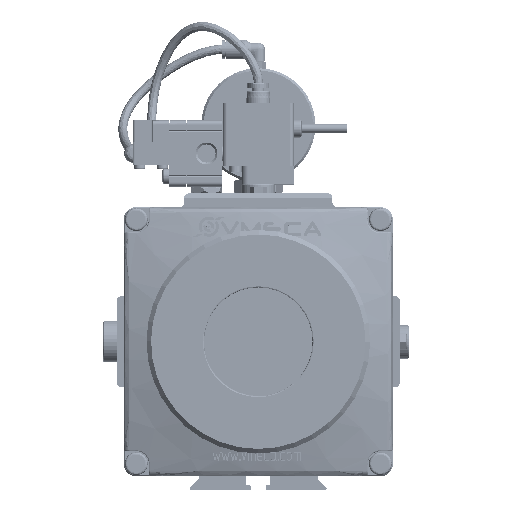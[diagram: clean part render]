
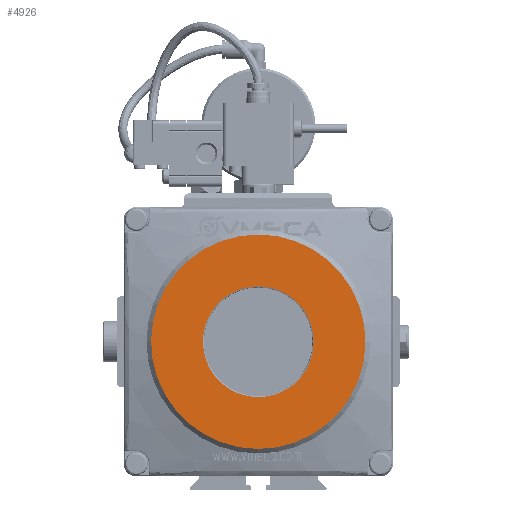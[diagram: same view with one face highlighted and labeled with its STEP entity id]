
A CAD part, left-side view. The second image highlights one B-rep face of the part: STEP entity #4926.
In plain terms, the highlighted planar face has unit normal (-1, 0, 0).
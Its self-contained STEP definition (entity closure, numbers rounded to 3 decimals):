
#4926 = ADVANCED_FACE( '', ( #11439, #11440 ), #11441, .F. );
#11439 = FACE_OUTER_BOUND( '', #22153, .T. );
#11440 = FACE_BOUND( '', #22154, .T. );
#11441 = PLANE( '', #22155 );
#22153 = EDGE_LOOP( '', ( #38006 ) );
#22154 = EDGE_LOOP( '', ( #38007 ) );
#22155 = AXIS2_PLACEMENT_3D( '', #38008, #38009, #38010 );
#38006 = ORIENTED_EDGE( '', *, *, #56571, .T. );
#38007 = ORIENTED_EDGE( '', *, *, #56572, .F. );
#38008 = CARTESIAN_POINT( '', ( -11., 0., 47. ) );
#38009 = DIRECTION( '', ( 1., 0., 0. ) );
#38010 = DIRECTION( '', ( 0., 1., 0. ) );
#56571 = EDGE_CURVE( '', #68247, #68247, #68248, .T. );
#56572 = EDGE_CURVE( '', #68249, #68249, #68250, .T. );
#68247 = VERTEX_POINT( '', #87728 );
#68248 = CIRCLE( '', #87729, 47. );
#68249 = VERTEX_POINT( '', #87730 );
#68250 = CIRCLE( '', #87731, 24.3 );
#87728 = CARTESIAN_POINT( '', ( -11., 0., 47. ) );
#87729 = AXIS2_PLACEMENT_3D( '', #101732, #101733, #101734 );
#87730 = CARTESIAN_POINT( '', ( -11., 0., 24.3 ) );
#87731 = AXIS2_PLACEMENT_3D( '', #101735, #101736, #101737 );
#101732 = CARTESIAN_POINT( '', ( -11., 0., 0. ) );
#101733 = DIRECTION( '', ( -1., 0., 0. ) );
#101734 = DIRECTION( '', ( 0., 0., 1. ) );
#101735 = CARTESIAN_POINT( '', ( -11., 0., 0. ) );
#101736 = DIRECTION( '', ( -1., 0., 0. ) );
#101737 = DIRECTION( '', ( 0., 0., 1. ) );
